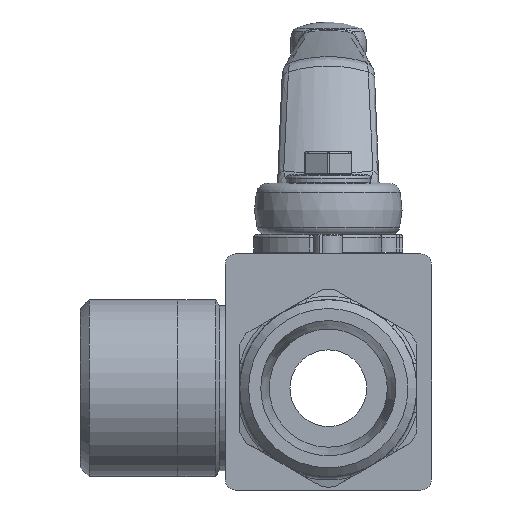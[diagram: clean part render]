
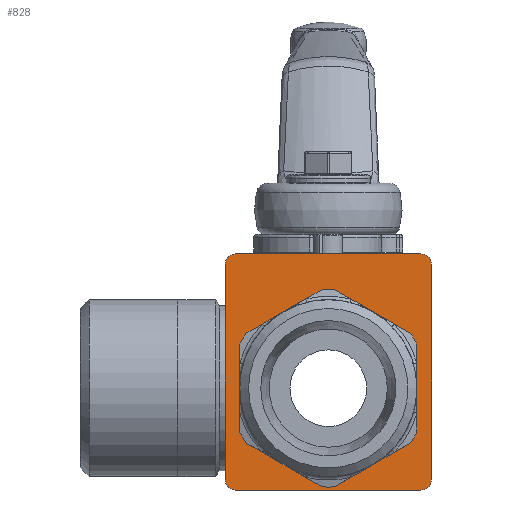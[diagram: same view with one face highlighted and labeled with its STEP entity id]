
A CAD part, front view. The second image highlights one B-rep face of the part: STEP entity #828.
In plain terms, the highlighted planar face has unit normal (0, -1, 0).
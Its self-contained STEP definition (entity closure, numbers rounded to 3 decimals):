
#828 = ADVANCED_FACE( '', ( #1859, #1860 ), #1861, .T. );
#1859 = FACE_BOUND( '', #3639, .T. );
#1860 = FACE_OUTER_BOUND( '', #3640, .T. );
#1861 = PLANE( '', #3641 );
#3639 = EDGE_LOOP( '', ( #6903 ) );
#3640 = EDGE_LOOP( '', ( #6904, #6905, #6906, #6907, #6908, #6909, #6910, #6911 ) );
#3641 = AXIS2_PLACEMENT_3D( '', #6912, #6913, #6914 );
#6903 = ORIENTED_EDGE( '', *, *, #9841, .F. );
#6904 = ORIENTED_EDGE( '', *, *, #9842, .T. );
#6905 = ORIENTED_EDGE( '', *, *, #9843, .T. );
#6906 = ORIENTED_EDGE( '', *, *, #9844, .T. );
#6907 = ORIENTED_EDGE( '', *, *, #9651, .T. );
#6908 = ORIENTED_EDGE( '', *, *, #9333, .T. );
#6909 = ORIENTED_EDGE( '', *, *, #9845, .T. );
#6910 = ORIENTED_EDGE( '', *, *, #9846, .T. );
#6911 = ORIENTED_EDGE( '', *, *, #9847, .T. );
#6912 = CARTESIAN_POINT( '', ( -17.5, -24.1, -17.25 ) );
#6913 = DIRECTION( '', ( 0., -1., 0. ) );
#6914 = DIRECTION( '', ( 0., 0., -1. ) );
#9333 = EDGE_CURVE( '', #10655, #10653, #10656, .T. );
#9651 = EDGE_CURVE( '', #11200, #10655, #11201, .T. );
#9841 = EDGE_CURVE( '', #11509, #11509, #11510, .T. );
#9842 = EDGE_CURVE( '', #11511, #11512, #11513, .T. );
#9843 = EDGE_CURVE( '', #11512, #11514, #11515, .T. );
#9844 = EDGE_CURVE( '', #11514, #11200, #11516, .T. );
#9845 = EDGE_CURVE( '', #10653, #11517, #11518, .T. );
#9846 = EDGE_CURVE( '', #11517, #11519, #11520, .T. );
#9847 = EDGE_CURVE( '', #11519, #11511, #11521, .T. );
#10653 = VERTEX_POINT( '', #12545 );
#10655 = VERTEX_POINT( '', #12548 );
#10656 = LINE( '', #12549, #12550 );
#11200 = VERTEX_POINT( '', #13698 );
#11201 = CIRCLE( '', #13699, 1.8 );
#11509 = VERTEX_POINT( '', #14269 );
#11510 = CIRCLE( '', #14270, 15. );
#11511 = VERTEX_POINT( '', #14271 );
#11512 = VERTEX_POINT( '', #14272 );
#11513 = LINE( '', #14273, #14274 );
#11514 = VERTEX_POINT( '', #14275 );
#11515 = CIRCLE( '', #14276, 1.8 );
#11516 = LINE( '', #14277, #14278 );
#11517 = VERTEX_POINT( '', #14279 );
#11518 = CIRCLE( '', #14280, 1.8 );
#11519 = VERTEX_POINT( '', #14281 );
#11520 = LINE( '', #14282, #14283 );
#11521 = CIRCLE( '', #14284, 1.8 );
#12545 = CARTESIAN_POINT( '', ( -17.5, -24.1, -15.45 ) );
#12548 = CARTESIAN_POINT( '', ( -17.5, -24.1, 20.95 ) );
#12549 = CARTESIAN_POINT( '', ( -17.5, -24.1, 22.75 ) );
#12550 = VECTOR( '', #16892, 1000. );
#13698 = CARTESIAN_POINT( '', ( -15.7, -24.1, 22.75 ) );
#13699 = AXIS2_PLACEMENT_3D( '', #17400, #17401, #17402 );
#14269 = CARTESIAN_POINT( '', ( 15., -24.1, 0. ) );
#14270 = AXIS2_PLACEMENT_3D( '', #17663, #17664, #17665 );
#14271 = CARTESIAN_POINT( '', ( 17.5, -24.1, -15.45 ) );
#14272 = CARTESIAN_POINT( '', ( 17.5, -24.1, 20.95 ) );
#14273 = CARTESIAN_POINT( '', ( 17.5, -24.1, -17.25 ) );
#14274 = VECTOR( '', #17666, 1000. );
#14275 = CARTESIAN_POINT( '', ( 15.7, -24.1, 22.75 ) );
#14276 = AXIS2_PLACEMENT_3D( '', #17667, #17668, #17669 );
#14277 = CARTESIAN_POINT( '', ( 17.5, -24.1, 22.75 ) );
#14278 = VECTOR( '', #17670, 1000. );
#14279 = CARTESIAN_POINT( '', ( -15.7, -24.1, -17.25 ) );
#14280 = AXIS2_PLACEMENT_3D( '', #17671, #17672, #17673 );
#14281 = CARTESIAN_POINT( '', ( 15.7, -24.1, -17.25 ) );
#14282 = CARTESIAN_POINT( '', ( -17.5, -24.1, -17.25 ) );
#14283 = VECTOR( '', #17674, 1000. );
#14284 = AXIS2_PLACEMENT_3D( '', #17675, #17676, #17677 );
#16892 = DIRECTION( '', ( 0., 0., -1. ) );
#17400 = CARTESIAN_POINT( '', ( -15.7, -24.1, 20.95 ) );
#17401 = DIRECTION( '', ( 0., -1., 0. ) );
#17402 = DIRECTION( '', ( 0., 0., -1. ) );
#17663 = CARTESIAN_POINT( '', ( 0., -24.1, 0. ) );
#17664 = DIRECTION( '', ( 0., -1., 0. ) );
#17665 = DIRECTION( '', ( 1., 0., 0. ) );
#17666 = DIRECTION( '', ( 0., 0., 1. ) );
#17667 = CARTESIAN_POINT( '', ( 15.7, -24.1, 20.95 ) );
#17668 = DIRECTION( '', ( 0., -1., 0. ) );
#17669 = DIRECTION( '', ( 0., 0., -1. ) );
#17670 = DIRECTION( '', ( -1., 0., 0. ) );
#17671 = CARTESIAN_POINT( '', ( -15.7, -24.1, -15.45 ) );
#17672 = DIRECTION( '', ( 0., -1., 0. ) );
#17673 = DIRECTION( '', ( 0., 0., -1. ) );
#17674 = DIRECTION( '', ( 1., 0., 0. ) );
#17675 = CARTESIAN_POINT( '', ( 15.7, -24.1, -15.45 ) );
#17676 = DIRECTION( '', ( 0., -1., 0. ) );
#17677 = DIRECTION( '', ( 0., 0., -1. ) );
